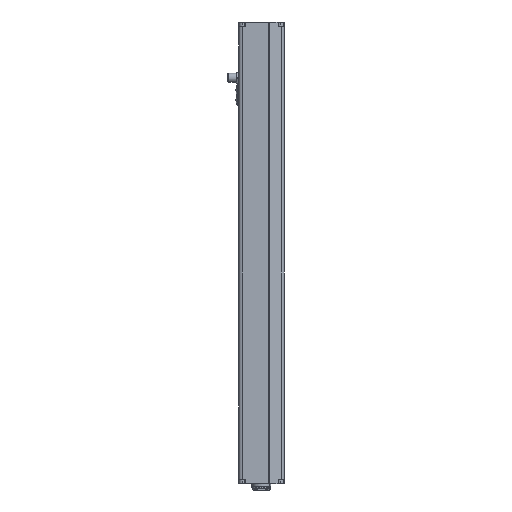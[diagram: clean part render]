
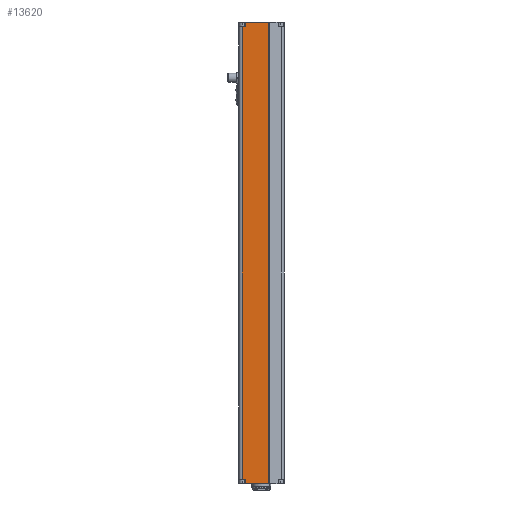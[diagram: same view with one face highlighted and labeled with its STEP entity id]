
A CAD part, left-side view. The second image highlights one B-rep face of the part: STEP entity #13620.
In plain terms, the highlighted planar face has unit normal (-1, 0, 0).
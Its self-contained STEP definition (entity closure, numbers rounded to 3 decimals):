
#480 = DIRECTION ( 'NONE',  ( 0., 1., 0. ) ) ;
#508 = PLANE ( 'NONE',  #34473 ) ;
#2751 = CARTESIAN_POINT ( 'NONE',  ( -30., 21.151, 0.5 ) ) ;
#2774 = VECTOR ( 'NONE', #18409, 1000. ) ;
#2954 = VERTEX_POINT ( 'NONE', #2751 ) ;
#2975 = VECTOR ( 'NONE', #480, 1000. ) ;
#3552 = LINE ( 'NONE', #10194, #33674 ) ;
#4093 = CARTESIAN_POINT ( 'NONE',  ( -30., 30., 6.3 ) ) ;
#4902 = CARTESIAN_POINT ( 'NONE',  ( -30., -9.606, 0.5 ) ) ;
#5147 = VERTEX_POINT ( 'NONE', #38151 ) ;
#5305 = VERTEX_POINT ( 'NONE', #37361 ) ;
#5555 = VECTOR ( 'NONE', #8109, 1000. ) ;
#6285 = EDGE_CURVE ( 'NONE', #5147, #23397, #31403, .T. ) ;
#6720 = CARTESIAN_POINT ( 'NONE',  ( -30., 25.5, 605.7 ) ) ;
#7592 = DIRECTION ( 'NONE',  ( 0., 1., 0. ) ) ;
#8109 = DIRECTION ( 'NONE',  ( 0., 0., -1. ) ) ;
#9088 = CARTESIAN_POINT ( 'NONE',  ( -30., 30., 605.7 ) ) ;
#10194 = CARTESIAN_POINT ( 'NONE',  ( -30., 21.151, 612. ) ) ;
#10300 = DIRECTION ( 'NONE',  ( 0., 0., -1. ) ) ;
#10721 = CARTESIAN_POINT ( 'NONE',  ( -30., 21.151, 611.5 ) ) ;
#11248 = EDGE_CURVE ( 'NONE', #11271, #5305, #36632, .T. ) ;
#11271 = VERTEX_POINT ( 'NONE', #6720 ) ;
#12702 = CARTESIAN_POINT ( 'NONE',  ( -30., 21.151, 0. ) ) ;
#13159 = EDGE_CURVE ( 'NONE', #2954, #13970, #18113, .T. ) ;
#13390 = ORIENTED_EDGE ( 'NONE', *, *, #11248, .F. ) ;
#13598 = LINE ( 'NONE', #25495, #5555 ) ;
#13620 = ADVANCED_FACE ( 'NONE', ( #19033 ), #508, .F. ) ;
#13820 = LINE ( 'NONE', #38402, #2975 ) ;
#13848 = VECTOR ( 'NONE', #7592, 1000. ) ;
#13970 = VERTEX_POINT ( 'NONE', #4902 ) ;
#14229 = EDGE_CURVE ( 'NONE', #5147, #2954, #18711, .T. ) ;
#16152 = DIRECTION ( 'NONE',  ( 1., 0., 0. ) ) ;
#16314 = ORIENTED_EDGE ( 'NONE', *, *, #25351, .T. ) ;
#16426 = CARTESIAN_POINT ( 'NONE',  ( -30., 25.5, 6.3 ) ) ;
#16883 = LINE ( 'NONE', #34477, #19977 ) ;
#18113 = LINE ( 'NONE', #30050, #20703 ) ;
#18409 = DIRECTION ( 'NONE',  ( 0., -1., 0. ) ) ;
#18711 = LINE ( 'NONE', #12702, #24584 ) ;
#19033 = FACE_OUTER_BOUND ( 'NONE', #19842, .T. ) ;
#19842 = EDGE_LOOP ( 'NONE', ( #36089, #35988, #16314, #26051, #29927, #13390, #30241, #36593 ) ) ;
#19977 = VECTOR ( 'NONE', #31522, 1000. ) ;
#20703 = VECTOR ( 'NONE', #32767, 1000. ) ;
#23397 = VERTEX_POINT ( 'NONE', #16426 ) ;
#24547 = CARTESIAN_POINT ( 'NONE',  ( -30., 30., 612. ) ) ;
#24584 = VECTOR ( 'NONE', #27910, 1000. ) ;
#25351 = EDGE_CURVE ( 'NONE', #13970, #32650, #16883, .T. ) ;
#25495 = CARTESIAN_POINT ( 'NONE',  ( -30., 25.5, 612. ) ) ;
#26051 = ORIENTED_EDGE ( 'NONE', *, *, #30992, .T. ) ;
#27910 = DIRECTION ( 'NONE',  ( 0., 0., -1. ) ) ;
#29927 = ORIENTED_EDGE ( 'NONE', *, *, #33353, .T. ) ;
#30050 = CARTESIAN_POINT ( 'NONE',  ( -30., 30., 0.5 ) ) ;
#30241 = ORIENTED_EDGE ( 'NONE', *, *, #32894, .T. ) ;
#30957 = CARTESIAN_POINT ( 'NONE',  ( -30., -9.606, 611.5 ) ) ;
#30992 = EDGE_CURVE ( 'NONE', #32650, #38468, #13820, .T. ) ;
#31403 = LINE ( 'NONE', #4093, #13848 ) ;
#31522 = DIRECTION ( 'NONE',  ( 0., 0., 1. ) ) ;
#32650 = VERTEX_POINT ( 'NONE', #30957 ) ;
#32767 = DIRECTION ( 'NONE',  ( 0., -1., 0. ) ) ;
#32894 = EDGE_CURVE ( 'NONE', #11271, #23397, #13598, .T. ) ;
#33202 = DIRECTION ( 'NONE',  ( 0., 0., -1. ) ) ;
#33353 = EDGE_CURVE ( 'NONE', #38468, #5305, #3552, .T. ) ;
#33674 = VECTOR ( 'NONE', #33202, 1000. ) ;
#34473 = AXIS2_PLACEMENT_3D ( 'NONE', #24547, #16152, #10300 ) ;
#34477 = CARTESIAN_POINT ( 'NONE',  ( -30., -9.606, 612. ) ) ;
#35988 = ORIENTED_EDGE ( 'NONE', *, *, #13159, .T. ) ;
#36089 = ORIENTED_EDGE ( 'NONE', *, *, #14229, .T. ) ;
#36593 = ORIENTED_EDGE ( 'NONE', *, *, #6285, .F. ) ;
#36632 = LINE ( 'NONE', #9088, #2774 ) ;
#37361 = CARTESIAN_POINT ( 'NONE',  ( -30., 21.151, 605.7 ) ) ;
#38151 = CARTESIAN_POINT ( 'NONE',  ( -30., 21.151, 6.3 ) ) ;
#38402 = CARTESIAN_POINT ( 'NONE',  ( -30., 21.151, 611.5 ) ) ;
#38468 = VERTEX_POINT ( 'NONE', #10721 ) ;
